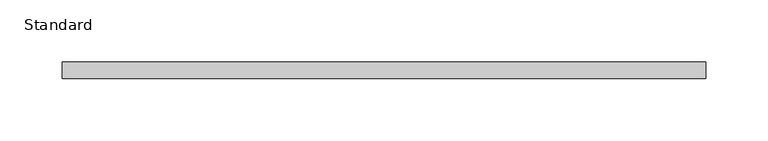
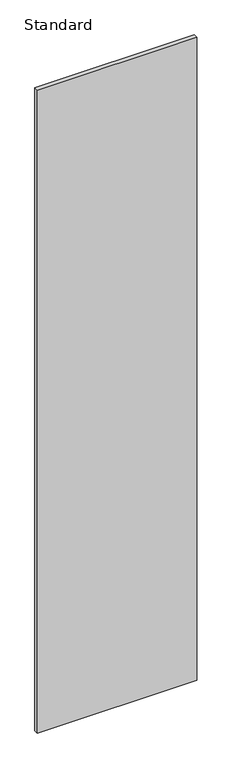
"""IFC4 building model written with IfcOpenShell, lengths in millimetres: furniture geometry, X_Partition-Compact Laminate-Duracube-Rectangular : Standard."""

from ifc_helpers import new_model, si_unit, frame, origin, place, context, project, spatial, polyline, outline, extrude, source, transform, mapped, element, save


def standard_33f537b4(model_context):
    return source(origin(), model_context, "Body", "SweptSolid", [
        extrude(outline(polyline([(302.5336598, 0.0), (302.5336598, -13.0), (-213.1330069, -13.0), (-213.1330069, 0.0), (302.5336598, 0.0)])), frame((0.0, 0.0, 200.0), z_axis=(0.0, 0.0, 1.0), x_axis=(1.0, 0.0, 0.0)), (0.0, 0.0, 1.0), 2198.0),
    ])


if __name__ == "__main__":
    model = new_model("IFC4")
    model_context = context("Model", 3, world=origin())
    ifc_project = project(units=[si_unit("LENGTHUNIT", "METRE", prefix="MILLI")], contexts=[model_context])
    site = spatial("IfcSite", under=ifc_project)
    building = spatial("IfcBuilding", under=site)
    placement = place(None, origin())
    standard_shape = standard_33f537b4(model_context)
    element("IfcFurniture", 1, ObjectType="X_Partition-Compact Laminate-Duracube-Rectangular : Standard", at=placement, inside=building, context=model_context, shape_type="MappedRepresentation", body=[
        mapped(standard_shape, transform((0.0, 0.0, 0.0), x_axis=(1.0, 0.0, 0.0), y_axis=(0.0, 1.0, 0.0), z_axis=(0.0, 0.0, 1.0))),
    ])
    save(model, "model.ifc")
